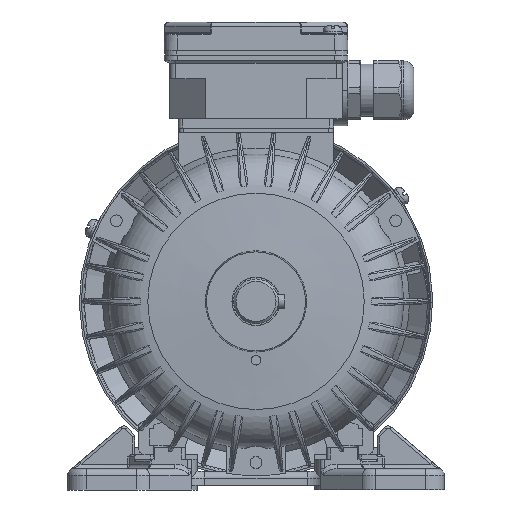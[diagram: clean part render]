
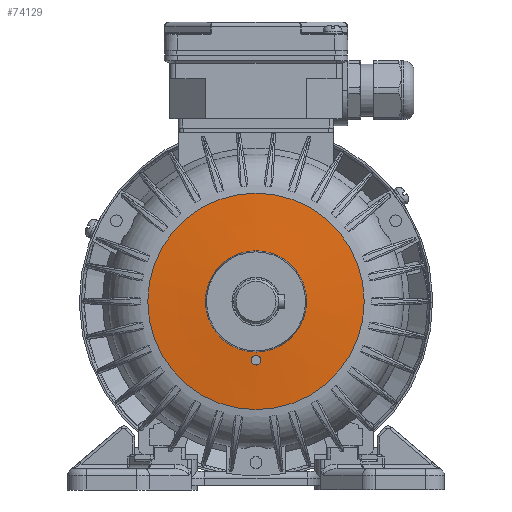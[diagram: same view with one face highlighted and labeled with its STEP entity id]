
A CAD part, left-side view. The second image highlights one B-rep face of the part: STEP entity #74129.
In plain terms, the highlighted conical face has half-angle 85.5 degrees and reference radius 21.472 mm.
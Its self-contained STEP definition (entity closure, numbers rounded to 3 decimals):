
#488=CONICAL_SURFACE('',#78451,21.472,1.492);
#10786=B_SPLINE_CURVE_WITH_KNOTS('',3,(#115237,#115238,#115239,#115240,
#115241,#115242,#115243,#115244,#115245,#115246,#115247),.UNSPECIFIED.,
 .T.,.F.,(1,1,1,1,1,1,1,1,1,1,1,1,1,1,1),(-0.005,-0.003,
-0.002,0.,0.002,0.003,
0.005,0.006,0.008,0.009,
0.011,0.013,0.014,0.016,
0.017),.UNSPECIFIED.);
#21203=ORIENTED_EDGE('',*,*,#32791,.T.);
#21204=ORIENTED_EDGE('',*,*,#33062,.F.);
#21205=ORIENTED_EDGE('',*,*,#33063,.T.);
#32791=EDGE_CURVE('',#39565,#39565,#43381,.T.);
#33062=EDGE_CURVE('',#39681,#39681,#43456,.T.);
#33063=EDGE_CURVE('',#39682,#39682,#10786,.T.);
#39565=VERTEX_POINT('',#111737);
#39681=VERTEX_POINT('',#115236);
#39682=VERTEX_POINT('',#115248);
#43381=CIRCLE('',#78222,45.912);
#43456=CIRCLE('',#78452,21.472);
#46266=EDGE_LOOP('',(#21203));
#46267=EDGE_LOOP('',(#21204));
#46268=EDGE_LOOP('',(#21205));
#49738=FACE_BOUND('',#46266,.T.);
#49739=FACE_BOUND('',#46267,.T.);
#49740=FACE_BOUND('',#46268,.T.);
#74129=ADVANCED_FACE('',(#49738,#49739,#49740),#488,.T.);
#78222=AXIS2_PLACEMENT_3D('',#111736,#88366,#88367);
#78451=AXIS2_PLACEMENT_3D('',#115234,#88917,#88918);
#78452=AXIS2_PLACEMENT_3D('',#115235,#88919,#88920);
#88366=DIRECTION('',(-1.,0.,0.));
#88367=DIRECTION('',(0.,0.,-1.));
#88917=DIRECTION('',(1.,0.,0.));
#88918=DIRECTION('',(0.,0.,1.));
#88919=DIRECTION('',(-1.,0.,0.));
#88920=DIRECTION('',(0.,0.,-1.));
#111736=CARTESIAN_POINT('',(-33.077,0.,0.));
#111737=CARTESIAN_POINT('',(-33.077,0.,-45.912));
#115234=CARTESIAN_POINT('',(-35.,0.,0.));
#115235=CARTESIAN_POINT('',(-35.,0.,0.));
#115236=CARTESIAN_POINT('',(-35.,0.,-21.472));
#115237=CARTESIAN_POINT('',(-34.549,-0.01,-27.218));
#115238=CARTESIAN_POINT('',(-34.596,1.564,-26.571));
#115239=CARTESIAN_POINT('',(-34.714,2.215,-25.007));
#115240=CARTESIAN_POINT('',(-34.841,1.576,-23.442));
#115241=CARTESIAN_POINT('',(-34.899,0.01,-22.782));
#115242=CARTESIAN_POINT('',(-34.843,-1.563,-23.429));
#115243=CARTESIAN_POINT('',(-34.715,-2.215,-24.989));
#115244=CARTESIAN_POINT('',(-34.597,-1.577,-26.558));
#115245=CARTESIAN_POINT('',(-34.549,-0.01,-27.218));
#115246=CARTESIAN_POINT('',(-34.596,1.564,-26.571));
#115247=CARTESIAN_POINT('',(-34.714,2.215,-25.007));
#115248=CARTESIAN_POINT('',(-34.608,1.41,-26.418));
